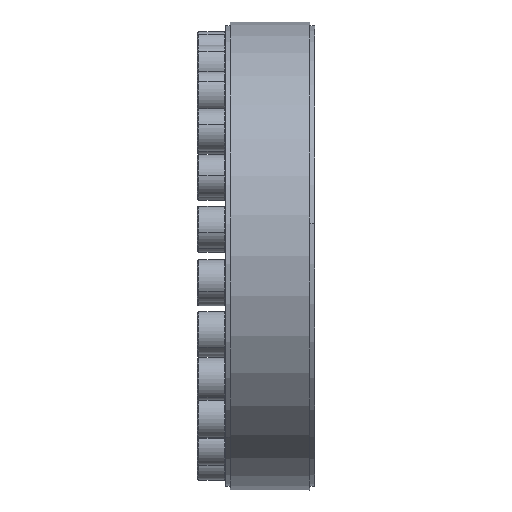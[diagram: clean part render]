
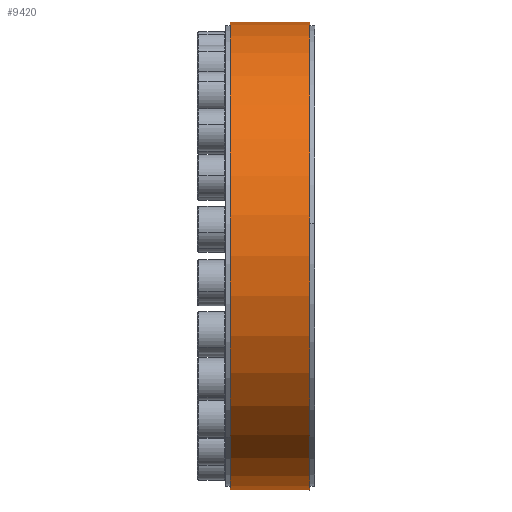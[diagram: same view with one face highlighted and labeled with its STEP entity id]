
A CAD part, top view. The second image highlights one B-rep face of the part: STEP entity #9420.
In plain terms, the highlighted cylindrical face has radius 100 mm (diameter 200 mm), a partial arc.
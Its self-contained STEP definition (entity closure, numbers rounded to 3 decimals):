
#1263 = LINE ( 'NONE', #5990, #5436 ) ;
#1919 = EDGE_CURVE ( 'NONE', #11088, #11517, #9556, .T. ) ;
#2132 = CARTESIAN_POINT ( 'NONE',  ( -17., 100., 0. ) ) ;
#2138 = DIRECTION ( 'NONE',  ( 0., -1., 0. ) ) ;
#2266 = DIRECTION ( 'NONE',  ( -1., 0., 0. ) ) ;
#2330 = ORIENTED_EDGE ( 'NONE', *, *, #5582, .T. ) ;
#3152 = DIRECTION ( 'NONE',  ( -1., 0., 0. ) ) ;
#3757 = VERTEX_POINT ( 'NONE', #9099 ) ;
#4460 = DIRECTION ( 'NONE',  ( 0., -1., 0. ) ) ;
#4908 = FACE_OUTER_BOUND ( 'NONE', #5896, .T. ) ;
#5221 = AXIS2_PLACEMENT_3D ( 'NONE', #16023, #2266, #17328 ) ;
#5436 = VECTOR ( 'NONE', #15743, 1000. ) ;
#5582 = EDGE_CURVE ( 'NONE', #3757, #11517, #1263, .T. ) ;
#5896 = EDGE_LOOP ( 'NONE', ( #15986, #2330, #12624, #14611 ) ) ;
#5990 = CARTESIAN_POINT ( 'NONE',  ( -19.999, 100., 0. ) ) ;
#7151 = AXIS2_PLACEMENT_3D ( 'NONE', #15721, #7555, #2138 ) ;
#7270 = VECTOR ( 'NONE', #16818, 1000. ) ;
#7555 = DIRECTION ( 'NONE',  ( -1., 0., 0. ) ) ;
#9099 = CARTESIAN_POINT ( 'NONE',  ( 17., 100., 0. ) ) ;
#9420 = ADVANCED_FACE ( 'NONE', ( #4908 ), #10025, .T. ) ;
#9556 = CIRCLE ( 'NONE', #7151, 100. ) ;
#9928 = CARTESIAN_POINT ( 'NONE',  ( -19.999, -100., 0. ) ) ;
#10025 = CYLINDRICAL_SURFACE ( 'NONE', #5221, 100. ) ;
#10293 = CARTESIAN_POINT ( 'NONE',  ( 17., -100., 0. ) ) ;
#10552 = CARTESIAN_POINT ( 'NONE',  ( -17., -100., 0. ) ) ;
#11088 = VERTEX_POINT ( 'NONE', #10552 ) ;
#11314 = LINE ( 'NONE', #9928, #7270 ) ;
#11517 = VERTEX_POINT ( 'NONE', #2132 ) ;
#12310 = CIRCLE ( 'NONE', #13648, 100. ) ;
#12624 = ORIENTED_EDGE ( 'NONE', *, *, #1919, .F. ) ;
#13648 = AXIS2_PLACEMENT_3D ( 'NONE', #15418, #3152, #4460 ) ;
#14611 = ORIENTED_EDGE ( 'NONE', *, *, #15131, .F. ) ;
#15131 = EDGE_CURVE ( 'NONE', #16682, #11088, #11314, .T. ) ;
#15418 = CARTESIAN_POINT ( 'NONE',  ( 17., 0., 0. ) ) ;
#15721 = CARTESIAN_POINT ( 'NONE',  ( -17., 0., 0. ) ) ;
#15743 = DIRECTION ( 'NONE',  ( -1., 0., 0. ) ) ;
#15986 = ORIENTED_EDGE ( 'NONE', *, *, #17296, .T. ) ;
#16023 = CARTESIAN_POINT ( 'NONE',  ( -19.999, 0., 0. ) ) ;
#16682 = VERTEX_POINT ( 'NONE', #10293 ) ;
#16818 = DIRECTION ( 'NONE',  ( -1., 0., 0. ) ) ;
#17296 = EDGE_CURVE ( 'NONE', #16682, #3757, #12310, .T. ) ;
#17328 = DIRECTION ( 'NONE',  ( 0., -1., 0. ) ) ;
